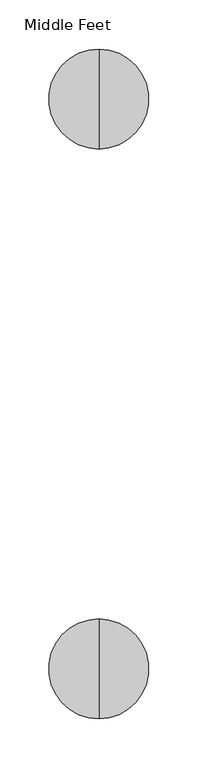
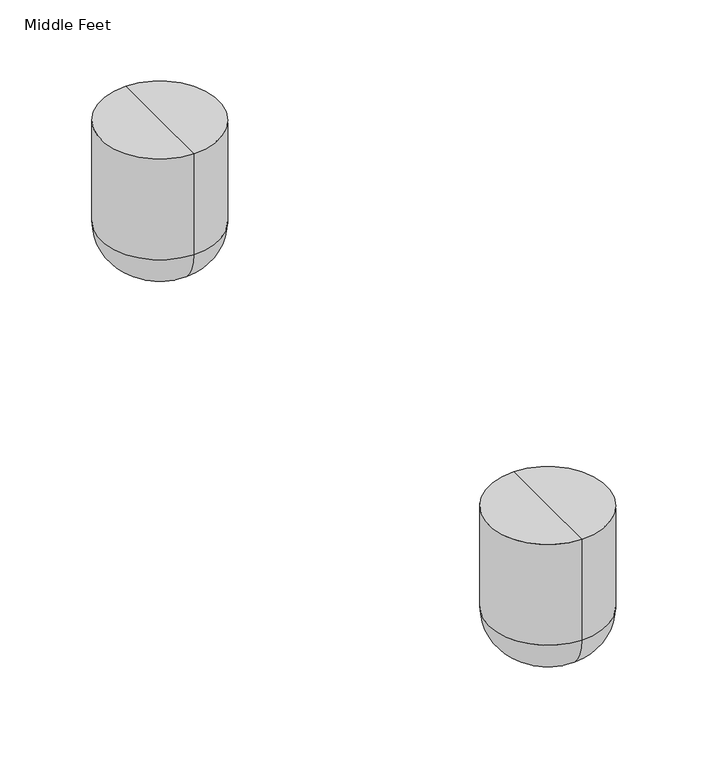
"""IFC4 building model written with IfcOpenShell, lengths in millimetres: furniture geometry, Coalesse_AM_Ensemble_Seat_EndOption : Middle Feet."""

from ifc_helpers import new_model, si_unit, point, frame, origin, place, context, project, spatial, circle_curve, ellipse_curve, trimmed, source, transform, mapped, element, save
from ifc_brep_helpers import plane_surface, cylinder_surface, revolved_surface, advanced_brep


def middle_feet_97e92b7e(model_context):
    return source(origin(), model_context, "Body", "AdvancedBrep", [
        advanced_brep(
        [(71.789512, 747.4877706, 130.0907271), (71.789512, 645.5490367, 130.0907271), (71.789512, 696.5184037, 130.0907271), (71.789512, 747.4877706, 38.1), (71.789512, 645.5490367, 38.1), (71.789512, 709.3877706, 0.0), (71.789512, 683.6490367, 0.0), (71.789512, 696.5184037, 0.0)],
        [
            (0, 1, circle_curve(frame((71.789512, 696.5184037, 130.0907271), z_axis=(0.0, 0.0, 1.0), x_axis=(0.0, -1.0, 0.0)), 50.969367)),
            (1, 2),
            (2, 0),
            (1, 0, circle_curve(frame((71.789512, 696.5184037, 130.0907271), z_axis=(0.0, 0.0, 1.0), x_axis=(0.0, -1.0, 0.0)), 50.969367)),
            (3, 4, circle_curve(frame((71.789512, 696.5184037, 38.1), z_axis=(0.0, 0.0, 1.0), x_axis=(0.0, -1.0, 0.0)), 50.969367)),
            (4, 1),
            (0, 3),
            (4, 3, circle_curve(frame((71.789512, 696.5184037, 38.1), z_axis=(0.0, 0.0, 1.0), x_axis=(0.0, -1.0, 0.0)), 50.969367)),
            (5, 6, circle_curve(frame((71.789512, 696.5184037, 0.0), z_axis=(0.0, 0.0, 1.0), x_axis=(0.0, -1.0, 0.0)), 12.869367)),
            (6, 4, circle_curve(frame((71.789512, 683.6490367, 38.1), z_axis=(-1.0, 0.0, 0.0), x_axis=(0.0, -1.0, 0.0)), 38.1)),
            (3, 5, circle_curve(frame((71.789512, 709.3877706, 38.1), z_axis=(-1.0, 0.0, 0.0), x_axis=(0.0, 1.0, 0.0)), 38.1)),
            (6, 5, circle_curve(frame((71.789512, 696.5184037, 0.0), z_axis=(0.0, 0.0, 1.0), x_axis=(0.0, -1.0, 0.0)), 12.869367)),
            (7, 6),
            (5, 7),
        ],
        [
            plane_surface(frame((71.789512, 696.5184037, 130.0907271), z_axis=(0.0, 0.0, 1.0), x_axis=(0.0, -1.0, 0.0))),
            cylinder_surface(frame((71.789512, 696.5184037, 130.0907271), z_axis=(0.0, 0.0, -1.0), x_axis=(0.0, -1.0, 0.0)), 50.969367),
            revolved_surface(trimmed(ellipse_curve(frame((71.789512, 683.6490367, 38.1), z_axis=(1.0, 0.0, 0.0), x_axis=(0.0, -1.0, 0.0)), 38.1, 38.1), [point((71.789512, 645.5490367, 38.1))], [point((71.789512, 683.6490367, 0.0))], True, "CARTESIAN"), (71.789512, 696.5184037, 130.0907271), (0.0, 0.0, -1.0)),
            plane_surface(frame((71.789512, 696.5184037, 0.0), z_axis=(0.0, 0.0, -1.0), x_axis=(0.0, -1.0, 0.0))),
        ],
        [
            (0, [[1, 2, 3]]),
            (0, [[4, -3, -2]]),
            (1, [[5, 6, -1, 7]]),
            (1, [[8, -7, -4, -6]]),
            (2, [[9, 10, -5, 11]]),
            (2, [[12, -11, -8, -10]]),
            (3, [[13, -9, 14]]),
            (3, [[-14, -12, -13]]),
        ],
    ),
        advanced_brep(
        [(71.789512, 166.4627706, 130.0907271), (71.789512, 64.5240367, 130.0907271), (71.789512, 115.4934037, 130.0907271), (71.789512, 166.4627706, 38.1), (71.789512, 64.5240367, 38.1), (71.789512, 128.3627706, 0.0), (71.789512, 102.6240367, 0.0), (71.789512, 115.4934037, 0.0)],
        [
            (0, 1, circle_curve(frame((71.789512, 115.4934037, 130.0907271), z_axis=(0.0, 0.0, 1.0), x_axis=(0.0, -1.0, 0.0)), 50.969367)),
            (1, 2),
            (2, 0),
            (1, 0, circle_curve(frame((71.789512, 115.4934037, 130.0907271), z_axis=(0.0, 0.0, 1.0), x_axis=(0.0, -1.0, 0.0)), 50.969367)),
            (3, 4, circle_curve(frame((71.789512, 115.4934037, 38.1), z_axis=(0.0, 0.0, 1.0), x_axis=(0.0, -1.0, 0.0)), 50.969367)),
            (4, 1),
            (0, 3),
            (4, 3, circle_curve(frame((71.789512, 115.4934037, 38.1), z_axis=(0.0, 0.0, 1.0), x_axis=(0.0, -1.0, 0.0)), 50.969367)),
            (5, 6, circle_curve(frame((71.789512, 115.4934037, 0.0), z_axis=(0.0, 0.0, 1.0), x_axis=(0.0, -1.0, 0.0)), 12.869367)),
            (6, 4, circle_curve(frame((71.789512, 102.6240367, 38.1), z_axis=(-1.0, 0.0, 0.0), x_axis=(0.0, -1.0, 0.0)), 38.1)),
            (3, 5, circle_curve(frame((71.789512, 128.3627706, 38.1), z_axis=(-1.0, 0.0, 0.0), x_axis=(0.0, 1.0, 0.0)), 38.1)),
            (6, 5, circle_curve(frame((71.789512, 115.4934037, 0.0), z_axis=(0.0, 0.0, 1.0), x_axis=(0.0, -1.0, 0.0)), 12.869367)),
            (7, 6),
            (5, 7),
        ],
        [
            plane_surface(frame((71.789512, 115.4934037, 130.0907271), z_axis=(0.0, 0.0, 1.0), x_axis=(0.0, -1.0, 0.0))),
            cylinder_surface(frame((71.789512, 115.4934037, 130.0907271), z_axis=(0.0, 0.0, -1.0), x_axis=(0.0, -1.0, 0.0)), 50.969367),
            revolved_surface(trimmed(ellipse_curve(frame((71.789512, 102.6240367, 38.1), z_axis=(1.0, 0.0, 0.0), x_axis=(0.0, -1.0, 0.0)), 38.1, 38.1), [point((71.789512, 64.5240367, 38.1))], [point((71.789512, 102.6240367, 0.0))], True, "CARTESIAN"), (71.789512, 115.4934037, 130.0907271), (0.0, 0.0, -1.0)),
            plane_surface(frame((71.789512, 115.4934037, 0.0), z_axis=(0.0, 0.0, -1.0), x_axis=(0.0, -1.0, 0.0))),
        ],
        [
            (0, [[1, 2, 3]]),
            (0, [[4, -3, -2]]),
            (1, [[5, 6, -1, 7]]),
            (1, [[8, -7, -4, -6]]),
            (2, [[9, 10, -5, 11]]),
            (2, [[12, -11, -8, -10]]),
            (3, [[13, -9, 14]]),
            (3, [[-14, -12, -13]]),
        ],
    ),
    ])


if __name__ == "__main__":
    model = new_model("IFC4")
    model_context = context("Model", 3, world=origin())
    ifc_project = project(units=[si_unit("LENGTHUNIT", "METRE", prefix="MILLI")], contexts=[model_context])
    site = spatial("IfcSite", under=ifc_project)
    building = spatial("IfcBuilding", under=site)
    placement = place(None, origin())
    middle_feet_shape = middle_feet_97e92b7e(model_context)
    element("IfcFurniture", 1, ObjectType="Coalesse_AM_Ensemble_Seat_EndOption : Middle Feet", at=placement, inside=building, context=model_context, shape_type="MappedRepresentation", body=[
        mapped(middle_feet_shape, transform((0.0, 0.0, 0.0), x_axis=(1.0, 0.0, 0.0), y_axis=(0.0, 1.0, 0.0), z_axis=(0.0, 0.0, 1.0))),
    ])
    save(model, "model.ifc")
